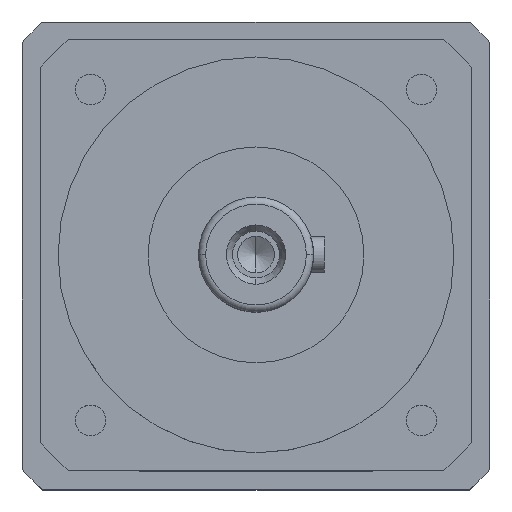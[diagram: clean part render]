
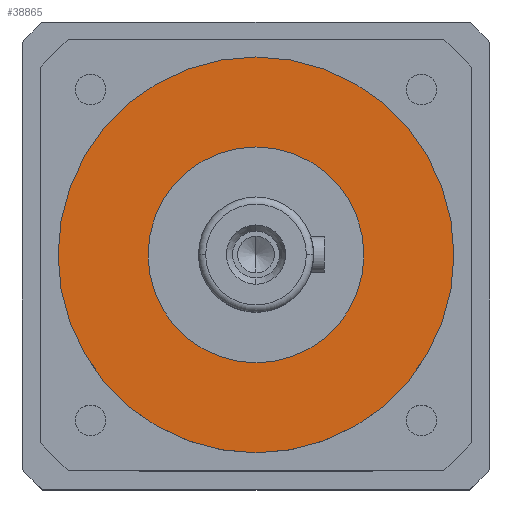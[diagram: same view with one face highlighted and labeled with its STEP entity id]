
A CAD part, top view. The second image highlights one B-rep face of the part: STEP entity #38865.
In plain terms, the highlighted planar face has unit normal (0, 0, 1).
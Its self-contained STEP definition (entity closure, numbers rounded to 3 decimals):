
#1250 = EDGE_CURVE ( 'NONE', #33362, #30983, #39641, .T. ) ;
#1747 = VERTEX_POINT ( 'NONE', #3608 ) ;
#2154 = DIRECTION ( 'NONE',  ( 1., 0., 0. ) ) ;
#2201 = DIRECTION ( 'NONE',  ( 0., 0., -1. ) ) ;
#2257 = CARTESIAN_POINT ( 'NONE',  ( 0., 0., -52. ) ) ;
#2952 = FACE_OUTER_BOUND ( 'NONE', #37156, .T. ) ;
#3083 = DIRECTION ( 'NONE',  ( 0., 0., -1. ) ) ;
#3608 = CARTESIAN_POINT ( 'NONE',  ( 55., 0., -52. ) ) ;
#5447 = ORIENTED_EDGE ( 'NONE', *, *, #20082, .F. ) ;
#11946 = AXIS2_PLACEMENT_3D ( 'NONE', #17149, #17113, #17078 ) ;
#12062 = FACE_BOUND ( 'NONE', #31933, .T. ) ;
#14777 = CARTESIAN_POINT ( 'NONE',  ( 0., 0., -52. ) ) ;
#16688 = AXIS2_PLACEMENT_3D ( 'NONE', #2257, #2201, #2154 ) ;
#17078 = DIRECTION ( 'NONE',  ( 1., 0., 0. ) ) ;
#17113 = DIRECTION ( 'NONE',  ( 0., 0., 1. ) ) ;
#17149 = CARTESIAN_POINT ( 'NONE',  ( 0., 0., -52. ) ) ;
#17164 = EDGE_CURVE ( 'NONE', #26204, #1747, #32651, .T. ) ;
#17837 = CARTESIAN_POINT ( 'NONE',  ( -30., 0., -52. ) ) ;
#18211 = DIRECTION ( 'NONE',  ( 1., 0., 0. ) ) ;
#18597 = CARTESIAN_POINT ( 'NONE',  ( 30., 0., -52. ) ) ;
#18810 = CIRCLE ( 'NONE', #43607, 30. ) ;
#20082 = EDGE_CURVE ( 'NONE', #1747, #26204, #31973, .T. ) ;
#20260 = PLANE ( 'NONE',  #39821 ) ;
#21471 = DIRECTION ( 'NONE',  ( 1., 0., 0. ) ) ;
#21508 = DIRECTION ( 'NONE',  ( 0., 0., -1. ) ) ;
#21516 = CARTESIAN_POINT ( 'NONE',  ( 0., 0., -52. ) ) ;
#24313 = ORIENTED_EDGE ( 'NONE', *, *, #17164, .F. ) ;
#24964 = ORIENTED_EDGE ( 'NONE', *, *, #43741, .F. ) ;
#25939 = AXIS2_PLACEMENT_3D ( 'NONE', #21516, #21508, #21471 ) ;
#26204 = VERTEX_POINT ( 'NONE', #43338 ) ;
#27234 = DIRECTION ( 'NONE',  ( -1., 0., 0. ) ) ;
#30983 = VERTEX_POINT ( 'NONE', #17837 ) ;
#31933 = EDGE_LOOP ( 'NONE', ( #37343, #24964 ) ) ;
#31973 = CIRCLE ( 'NONE', #16688, 55. ) ;
#32651 = CIRCLE ( 'NONE', #25939, 55. ) ;
#33362 = VERTEX_POINT ( 'NONE', #18597 ) ;
#37156 = EDGE_LOOP ( 'NONE', ( #5447, #24313 ) ) ;
#37343 = ORIENTED_EDGE ( 'NONE', *, *, #1250, .F. ) ;
#38764 = DIRECTION ( 'NONE',  ( 0., 0., 1. ) ) ;
#38865 = ADVANCED_FACE ( 'NONE', ( #12062, #2952 ), #20260, .F. ) ;
#39641 = CIRCLE ( 'NONE', #11946, 30. ) ;
#39821 = AXIS2_PLACEMENT_3D ( 'NONE', #43777, #3083, #27234 ) ;
#43338 = CARTESIAN_POINT ( 'NONE',  ( -55., 0., -52. ) ) ;
#43607 = AXIS2_PLACEMENT_3D ( 'NONE', #14777, #38764, #18211 ) ;
#43741 = EDGE_CURVE ( 'NONE', #30983, #33362, #18810, .T. ) ;
#43777 = CARTESIAN_POINT ( 'NONE',  ( 0., 30., -52. ) ) ;
